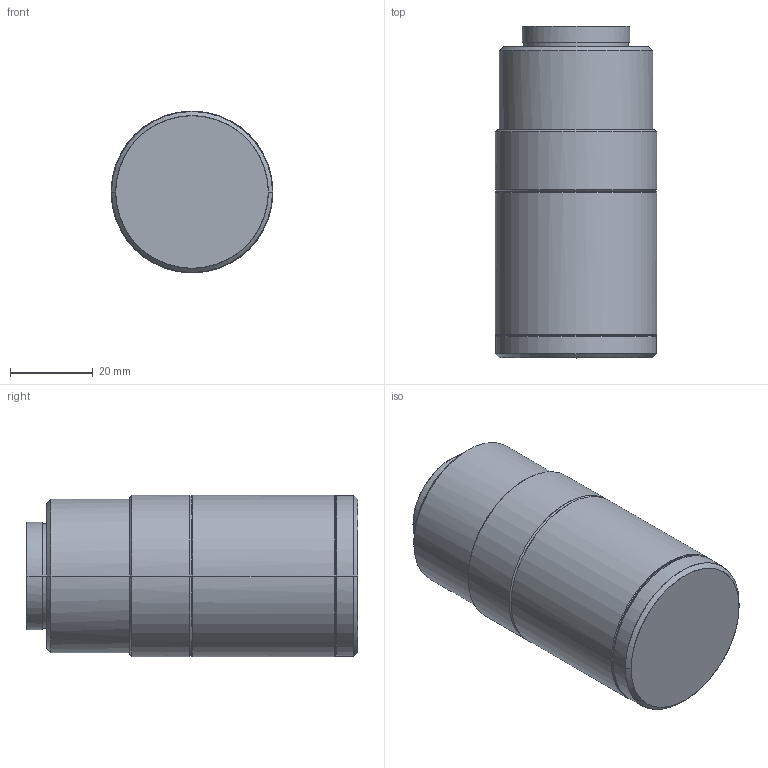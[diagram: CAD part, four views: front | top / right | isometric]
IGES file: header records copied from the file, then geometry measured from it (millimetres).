
Global section: native system: Kubotek KeyCreator; preprocessor: KCM Version 1.1.1028.0; date: 20161219.062912; units: millimetre
Bounding box: 39 x 80 x 39 mm (x, y, z)
Surface area: 12040.2 mm2 (no closed solid volume)
Topology: 0 solids, 0 shells, 38 faces, 238 edges, 240 vertices
Faces by surface type: bspline 38
